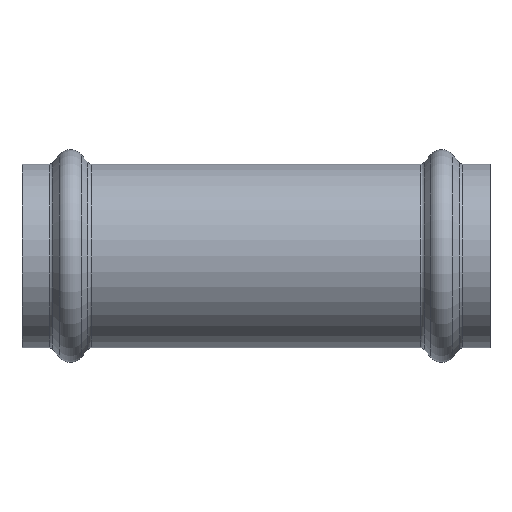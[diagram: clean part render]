
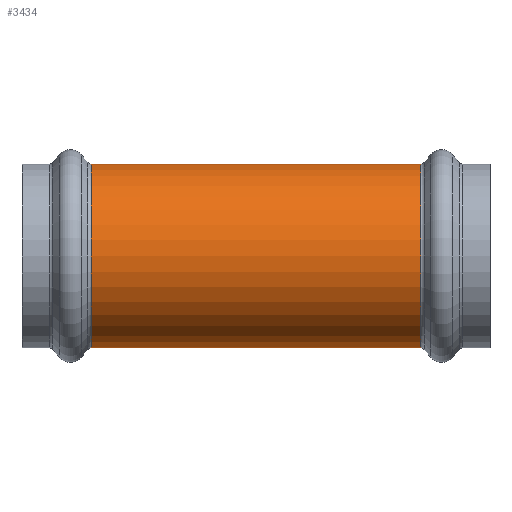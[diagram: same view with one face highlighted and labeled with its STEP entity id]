
A CAD part, front view. The second image highlights one B-rep face of the part: STEP entity #3434.
In plain terms, the highlighted cylindrical face has radius 19.05 mm (diameter 38.1 mm), a partial arc.
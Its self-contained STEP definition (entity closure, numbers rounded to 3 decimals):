
#174 = ORIENTED_EDGE ( 'NONE', *, *, #3297, .T. ) ;
#405 = CARTESIAN_POINT ( 'NONE',  ( -58.611, 0., -19.05 ) ) ;
#649 = CIRCLE ( 'NONE', #3711, 19.05 ) ;
#698 = ORIENTED_EDGE ( 'NONE', *, *, #1259, .T. ) ;
#1154 = CARTESIAN_POINT ( 'NONE',  ( 34.129, 0., -19.05 ) ) ;
#1259 = EDGE_CURVE ( 'NONE', #4693, #4364, #4630, .T. ) ;
#1692 = ORIENTED_EDGE ( 'NONE', *, *, #2373, .F. ) ;
#1704 = AXIS2_PLACEMENT_3D ( 'NONE', #4097, #4111, #4123 ) ;
#1850 = DIRECTION ( 'NONE',  ( 1., 0., 0. ) ) ;
#2143 = ORIENTED_EDGE ( 'NONE', *, *, #2416, .T. ) ;
#2258 = VECTOR ( 'NONE', #4767, 1000. ) ;
#2304 = DIRECTION ( 'NONE',  ( -1., 0., 0. ) ) ;
#2373 = EDGE_CURVE ( 'NONE', #4693, #3180, #2919, .T. ) ;
#2391 = LINE ( 'NONE', #4775, #2258 ) ;
#2416 = EDGE_CURVE ( 'NONE', #2630, #3180, #649, .T. ) ;
#2630 = VERTEX_POINT ( 'NONE', #4483 ) ;
#2919 = LINE ( 'NONE', #405, #3751 ) ;
#3180 = VERTEX_POINT ( 'NONE', #4418 ) ;
#3297 = EDGE_CURVE ( 'NONE', #4364, #2630, #2391, .T. ) ;
#3434 = ADVANCED_FACE ( 'NONE', ( #3862 ), #3754, .T. ) ;
#3513 = CARTESIAN_POINT ( 'NONE',  ( 34.129, 0., 19.05 ) ) ;
#3621 = CARTESIAN_POINT ( 'NONE',  ( -58.611, 0., 0. ) ) ;
#3711 = AXIS2_PLACEMENT_3D ( 'NONE', #4433, #1850, #4614 ) ;
#3728 = DIRECTION ( 'NONE',  ( 0., 0., 1. ) ) ;
#3751 = VECTOR ( 'NONE', #2304, 1000. ) ;
#3754 = CYLINDRICAL_SURFACE ( 'NONE', #4133, 19.05 ) ;
#3828 = DIRECTION ( 'NONE',  ( -1., 0., 0. ) ) ;
#3862 = FACE_OUTER_BOUND ( 'NONE', #4747, .T. ) ;
#4097 = CARTESIAN_POINT ( 'NONE',  ( 34.129, 0., 0. ) ) ;
#4111 = DIRECTION ( 'NONE',  ( -1., 0., 0. ) ) ;
#4123 = DIRECTION ( 'NONE',  ( 0., 0., 1. ) ) ;
#4133 = AXIS2_PLACEMENT_3D ( 'NONE', #3621, #3828, #3728 ) ;
#4364 = VERTEX_POINT ( 'NONE', #3513 ) ;
#4418 = CARTESIAN_POINT ( 'NONE',  ( -34.129, 0., -19.05 ) ) ;
#4433 = CARTESIAN_POINT ( 'NONE',  ( -34.129, 0., 0. ) ) ;
#4483 = CARTESIAN_POINT ( 'NONE',  ( -34.129, 0., 19.05 ) ) ;
#4614 = DIRECTION ( 'NONE',  ( 0., 0., -1. ) ) ;
#4630 = CIRCLE ( 'NONE', #1704, 19.05 ) ;
#4693 = VERTEX_POINT ( 'NONE', #1154 ) ;
#4747 = EDGE_LOOP ( 'NONE', ( #1692, #698, #174, #2143 ) ) ;
#4767 = DIRECTION ( 'NONE',  ( -1., 0., 0. ) ) ;
#4775 = CARTESIAN_POINT ( 'NONE',  ( -58.611, 0., 19.05 ) ) ;
